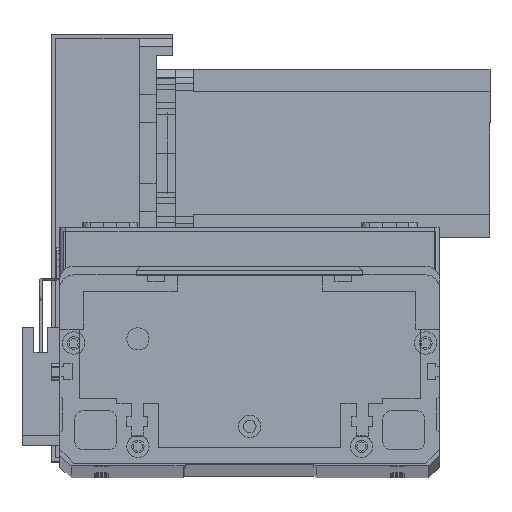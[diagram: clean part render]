
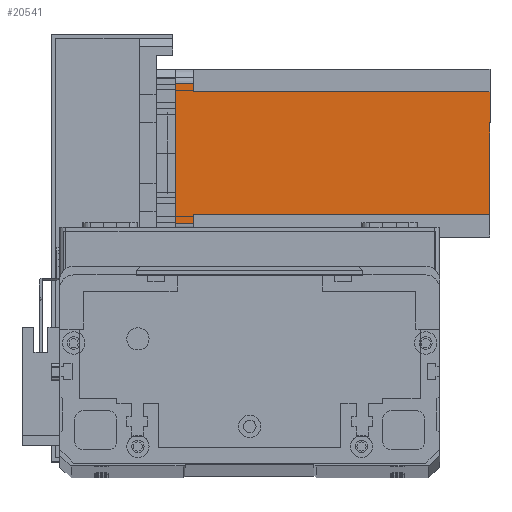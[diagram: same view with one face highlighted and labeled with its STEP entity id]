
A CAD part, top view. The second image highlights one B-rep face of the part: STEP entity #20541.
In plain terms, the highlighted planar face has unit normal (0, 0, 1) as drawn and (0, -1, 0) by its records, which use the part's own axes.
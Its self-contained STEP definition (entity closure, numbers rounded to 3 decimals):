
#748 = LINE ( 'NONE', #6406, #25426 ) ;
#968 = VECTOR ( 'NONE', #14948, 1000. ) ;
#987 = EDGE_CURVE ( 'NONE', #6501, #3018, #25243, .T. ) ;
#1045 = CARTESIAN_POINT ( 'NONE',  ( 52., 0., -112.5 ) ) ;
#2701 = VERTEX_POINT ( 'NONE', #13735 ) ;
#3018 = VERTEX_POINT ( 'NONE', #9754 ) ;
#3257 = LINE ( 'NONE', #11035, #27782 ) ;
#3558 = VERTEX_POINT ( 'NONE', #24761 ) ;
#3582 = EDGE_CURVE ( 'NONE', #2701, #3018, #23249, .T. ) ;
#3959 = CARTESIAN_POINT ( 'NONE',  ( 8., 0., -112.5 ) ) ;
#4060 = DIRECTION ( 'NONE',  ( 0., 0., 1. ) ) ;
#5790 = EDGE_CURVE ( 'NONE', #3558, #2701, #21981, .T. ) ;
#6406 = CARTESIAN_POINT ( 'NONE',  ( 55., 0., -112.5 ) ) ;
#6501 = VERTEX_POINT ( 'NONE', #25568 ) ;
#6522 = CARTESIAN_POINT ( 'NONE',  ( 0., 0., -112.5 ) ) ;
#6743 = VERTEX_POINT ( 'NONE', #8576 ) ;
#6764 = VECTOR ( 'NONE', #29341, 1000. ) ;
#7114 = CARTESIAN_POINT ( 'NONE',  ( 52., 0., -6.5 ) ) ;
#7464 = AXIS2_PLACEMENT_3D ( 'NONE', #6522, #11345, #27866 ) ;
#8043 = EDGE_CURVE ( 'NONE', #3558, #15806, #12798, .T. ) ;
#8257 = VERTEX_POINT ( 'NONE', #7114 ) ;
#8576 = CARTESIAN_POINT ( 'NONE',  ( 55., 0., 0. ) ) ;
#8754 = VERTEX_POINT ( 'NONE', #22872 ) ;
#9280 = VECTOR ( 'NONE', #4060, 1000. ) ;
#9754 = CARTESIAN_POINT ( 'NONE',  ( 5., 0., -6.5 ) ) ;
#11035 = CARTESIAN_POINT ( 'NONE',  ( 52., 0., -112.5 ) ) ;
#11301 = DIRECTION ( 'NONE',  ( 0., 0., -1. ) ) ;
#11340 = DIRECTION ( 'NONE',  ( 0., 0., 1. ) ) ;
#11345 = DIRECTION ( 'NONE',  ( 0., -1., 0. ) ) ;
#11621 = EDGE_CURVE ( 'NONE', #8257, #15806, #3257, .T. ) ;
#12798 = LINE ( 'NONE', #27394, #20711 ) ;
#13284 = VECTOR ( 'NONE', #21904, 1000. ) ;
#13735 = CARTESIAN_POINT ( 'NONE',  ( 8., 0., -6.5 ) ) ;
#14948 = DIRECTION ( 'NONE',  ( 1., 0., 0. ) ) ;
#15806 = VERTEX_POINT ( 'NONE', #1045 ) ;
#16861 = VECTOR ( 'NONE', #24002, 1000. ) ;
#18788 = LINE ( 'NONE', #24823, #6764 ) ;
#19926 = ORIENTED_EDGE ( 'NONE', *, *, #30212, .T. ) ;
#20021 = EDGE_LOOP ( 'NONE', ( #19926, #24074, #25235, #26272, #27937, #30220, #30101, #30491 ) ) ;
#20541 = ADVANCED_FACE ( 'NONE', ( #20580 ), #23179, .T. ) ;
#20580 = FACE_OUTER_BOUND ( 'NONE', #20021, .T. ) ;
#20711 = VECTOR ( 'NONE', #26253, 1000. ) ;
#21904 = DIRECTION ( 'NONE',  ( 0., 0., -1. ) ) ;
#21981 = LINE ( 'NONE', #3959, #9280 ) ;
#22412 = EDGE_CURVE ( 'NONE', #6501, #6743, #25633, .T. ) ;
#22493 = CARTESIAN_POINT ( 'NONE',  ( 5., 0., -112.5 ) ) ;
#22872 = CARTESIAN_POINT ( 'NONE',  ( 55., 0., -6.5 ) ) ;
#23179 = PLANE ( 'NONE',  #7464 ) ;
#23249 = LINE ( 'NONE', #24000, #16861 ) ;
#24000 = CARTESIAN_POINT ( 'NONE',  ( 8., 0., -6.5 ) ) ;
#24002 = DIRECTION ( 'NONE',  ( -1., 0., 0. ) ) ;
#24074 = ORIENTED_EDGE ( 'NONE', *, *, #30407, .T. ) ;
#24761 = CARTESIAN_POINT ( 'NONE',  ( 8., 0., -112.5 ) ) ;
#24823 = CARTESIAN_POINT ( 'NONE',  ( 52., 0., -6.5 ) ) ;
#25235 = ORIENTED_EDGE ( 'NONE', *, *, #22412, .F. ) ;
#25243 = LINE ( 'NONE', #22493, #13284 ) ;
#25426 = VECTOR ( 'NONE', #11340, 1000. ) ;
#25568 = CARTESIAN_POINT ( 'NONE',  ( 5., 0., 0. ) ) ;
#25633 = LINE ( 'NONE', #29124, #968 ) ;
#26253 = DIRECTION ( 'NONE',  ( 1., 0., 0. ) ) ;
#26272 = ORIENTED_EDGE ( 'NONE', *, *, #987, .T. ) ;
#27394 = CARTESIAN_POINT ( 'NONE',  ( 0., 0., -112.5 ) ) ;
#27782 = VECTOR ( 'NONE', #11301, 1000. ) ;
#27866 = DIRECTION ( 'NONE',  ( 0., 0., -1. ) ) ;
#27937 = ORIENTED_EDGE ( 'NONE', *, *, #3582, .F. ) ;
#29124 = CARTESIAN_POINT ( 'NONE',  ( 0., 0., 0. ) ) ;
#29341 = DIRECTION ( 'NONE',  ( 1., 0., 0. ) ) ;
#30101 = ORIENTED_EDGE ( 'NONE', *, *, #8043, .T. ) ;
#30212 = EDGE_CURVE ( 'NONE', #8257, #8754, #18788, .T. ) ;
#30220 = ORIENTED_EDGE ( 'NONE', *, *, #5790, .F. ) ;
#30407 = EDGE_CURVE ( 'NONE', #8754, #6743, #748, .T. ) ;
#30491 = ORIENTED_EDGE ( 'NONE', *, *, #11621, .F. ) ;
